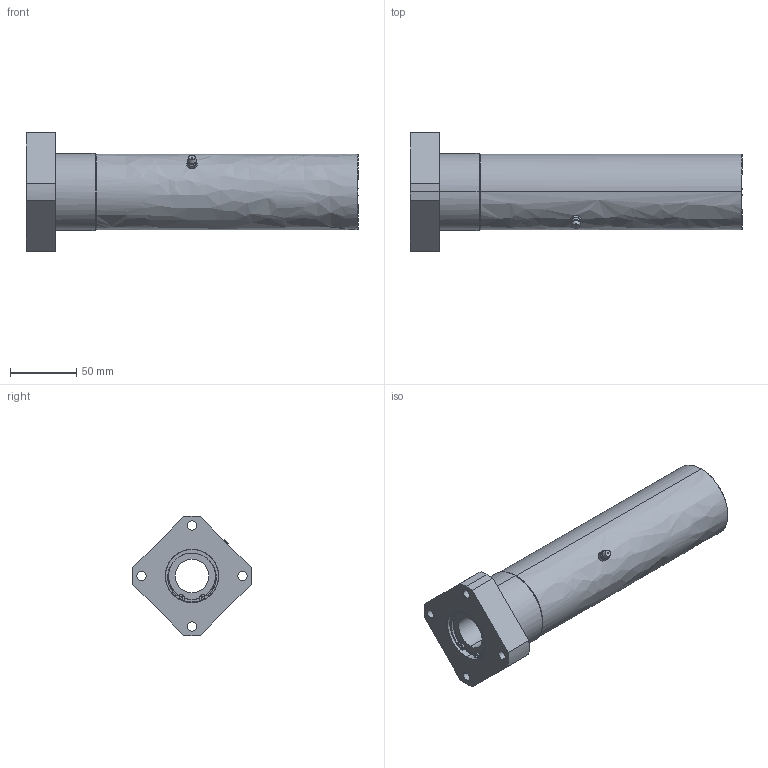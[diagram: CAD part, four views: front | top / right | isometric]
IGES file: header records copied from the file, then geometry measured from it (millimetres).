
Global section: file name: No Iges File Name specified; native system: AutoDesk Inventor R10; preprocessor: AutoDesk Inventor Iges Exporter R10; author: No Author specified; organization: No Organization specified; date: 20101214.140718; units: millimetre
Bounding box: 250 x 89.99 x 90 mm (x, y, z)
Surface area: 84287.4 mm2 (no closed solid volume)
Topology: 0 solids, 0 shells, 159 faces, 1125 edges, 1123 vertices
Faces by surface type: bspline 159
